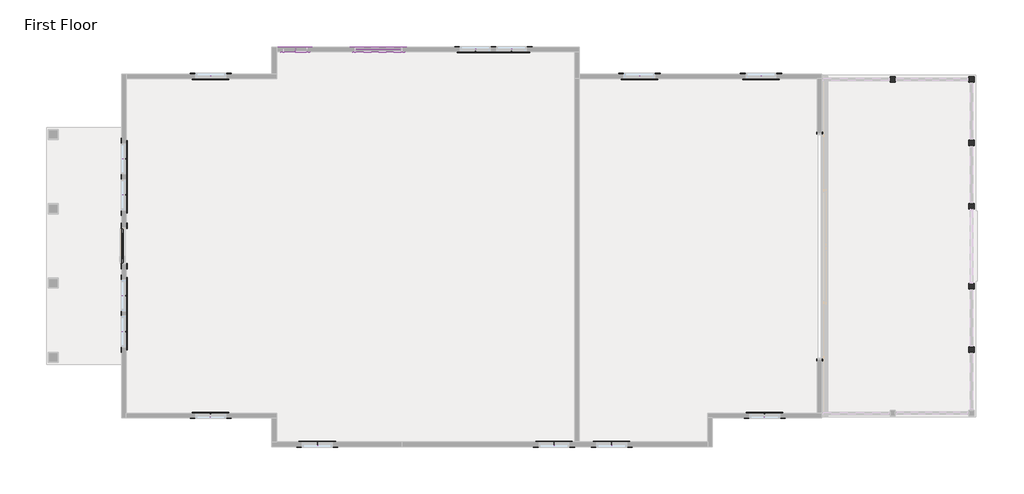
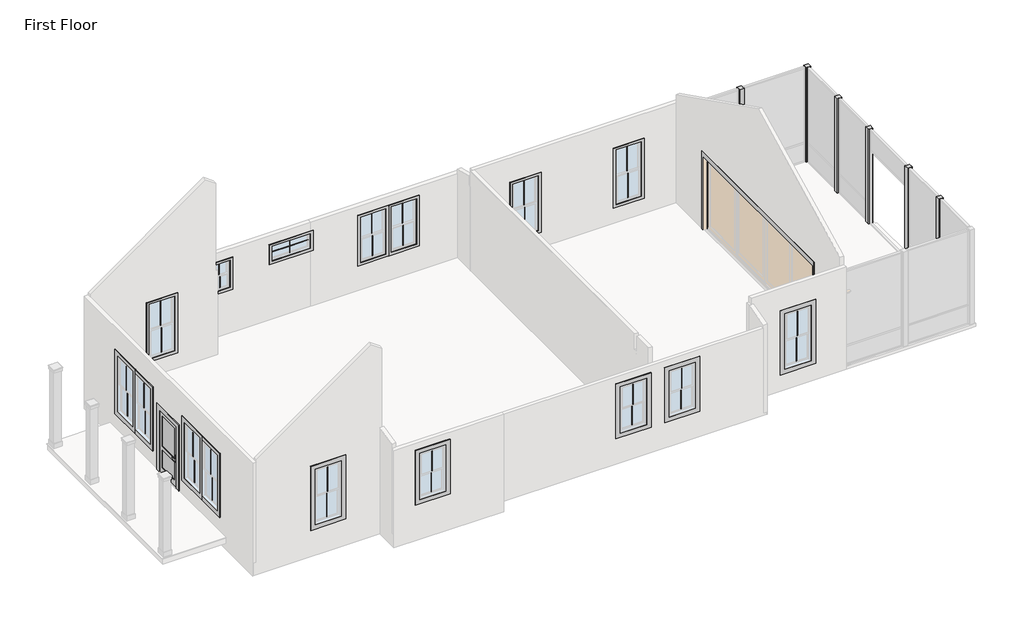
# One storey, part 3 of 3: 68 proxies, 6 columns.
"""IFC4 building model written with IfcOpenShell, lengths in millimetres."""

from ifc_helpers import new_model, si_unit, frame, origin, place, context, project, spatial, polyline, outline, extrude, faceted_brep, transform, mapped, element, save
from components import door_slab_half_light_door_slab_half_light_2d3cdd7a, door_trim_picture_frame_1x2_25_f5844e07, door_trim_picture_frame_standard_eb8f9a70, muntin_pattern_2x1_muntin_pattern_2x1_bbdac9d8, muntin_pattern_2x1_muntin_pattern_2x1_cb6e147c, muntin_pattern_2x1_muntin_pattern_2x1_e36e0986, muntin_pattern_2x2_muntin_pattern_2x2_6d229202, trim_window_exterior_flat_picture_frame_27f6d03d, trim_window_exterior_flat_picture_frame_de176061, trim_window_exterior_flat_picture_frame_9f57b5ba, trim_window_exterior_flat_picture_frame_5406b41e, trim_window_interior_flat_picture_frame_43c14297, trim_window_interior_flat_picture_frame_c160d771, trim_window_interior_flat_picture_frame_e9181bb7, trim_window_interior_flat_picture_frame_488bd46e, dimension_lumber_column_bh_6x6_5fb5b677

model = new_model("IFC4")

# Units and contexts
model_context = context("Model", 3, world=origin())
ifc_project = project(units=[si_unit("LENGTHUNIT", "METRE", prefix="MILLI")], contexts=[model_context])

# Site, building, storey
site = spatial("IfcSite", under=ifc_project)
building = spatial("IfcBuilding", under=site)
storey = spatial("IfcBuildingStorey", under=building, Name="First Floor", Elevation=0.0)

# Proxies
placement = place(None, origin())
door_slab_half_light_door_slab_half_light_shape = door_slab_half_light_door_slab_half_light_2d3cdd7a(model_context)
element("IfcBuildingElementProxy", 1, Name="Door Slab Half Light : Door Slab Half Light", ObjectType="Door Slab Half Light : Door Slab Half Light", at=placement, inside=storey, context=model_context, shape_type="MappedRepresentation", body=[
    mapped(door_slab_half_light_door_slab_half_light_shape, transform((5181.1795833, 10722.6499284, 0.0), x_axis=(0.0, -1.0, 0.0), y_axis=(1.0, 0.0, 0.0), z_axis=(0.0, 0.0, 1.0))),
])
door_trim_picture_frame_1x2_25_shape = door_trim_picture_frame_1x2_25_f5844e07(model_context)
element("IfcBuildingElementProxy", 2, Name="Door Trim Picture Frame : 1x2.25", ObjectType="Door Trim Picture Frame : 1x2.25", at=placement, inside=storey, context=model_context, shape_type="MappedRepresentation", body=[
    mapped(door_trim_picture_frame_1x2_25_shape, transform((23642.2170833, 10707.6893284, 2463.8), x_axis=(0.0, 1.0, 0.0), y_axis=(0.0, 0.0, 1.0), z_axis=(1.0, 0.0, 0.0))),
])
element("IfcBuildingElementProxy", 3, Name="Door Trim Picture Frame : 1x2.25", ObjectType="Door Trim Picture Frame : 1x2.25", at=placement, inside=storey, context=model_context, shape_type="MappedRepresentation", body=[
    mapped(door_trim_picture_frame_1x2_25_shape, transform((23521.5670833, 10707.6893284, 2463.8), x_axis=(0.0, -1.0, 0.0), y_axis=(0.0, 0.0, 1.0), z_axis=(-1.0, 0.0, 0.0))),
])
door_trim_picture_frame_standard_shape = door_trim_picture_frame_standard_eb8f9a70(model_context)
element("IfcBuildingElementProxy", 4, Name="Door Trim Picture Frame : Standard", ObjectType="Door Trim Picture Frame : Standard", at=placement, inside=storey, context=model_context, shape_type="MappedRepresentation", body=[
    mapped(door_trim_picture_frame_standard_shape, transform((5163.7170833, 10722.6499284, 2057.4), x_axis=(0.0, 1.0, 0.0), y_axis=(0.0, 0.0, -1.0), z_axis=(-1.0, 0.0, 0.0))),
])
element("IfcBuildingElementProxy", 5, Name="Door Trim Picture Frame : Standard", ObjectType="Door Trim Picture Frame : Standard", at=placement, inside=storey, context=model_context, shape_type="MappedRepresentation", body=[
    mapped(door_trim_picture_frame_standard_shape, transform((5284.3670833, 10722.6499284, 2057.4), x_axis=(0.0, -1.0, 0.0), y_axis=(0.0, 0.0, -1.0), z_axis=(1.0, 0.0, 0.0))),
])
muntin_pattern_2x1_muntin_pattern_2x1_shape = muntin_pattern_2x1_muntin_pattern_2x1_bbdac9d8(model_context)
element("IfcBuildingElementProxy", 6, Name="Muntin Pattern_2x1 : Muntin Pattern_2x1", ObjectType="Muntin Pattern_2x1 : Muntin Pattern_2x1", at=placement, inside=storey, context=model_context, shape_type="MappedRepresentation", body=[
    mapped(muntin_pattern_2x1_muntin_pattern_2x1_shape, transform((5198.6420833, 12070.1707284, 1546.225), x_axis=(0.0, 1.0, 0.0), y_axis=(-1.0, 0.0, 0.0), z_axis=(0.0, 0.0, 1.0))),
])
element("IfcBuildingElementProxy", 7, Name="Muntin Pattern_2x1 : Muntin Pattern_2x1", ObjectType="Muntin Pattern_2x1 : Muntin Pattern_2x1", at=placement, inside=storey, context=model_context, shape_type="MappedRepresentation", body=[
    mapped(muntin_pattern_2x1_muntin_pattern_2x1_shape, transform((5243.0920833, 12070.1707284, 685.8), x_axis=(0.0, 1.0, 0.0), y_axis=(-1.0, 0.0, 0.0), z_axis=(0.0, 0.0, 1.0))),
])
element("IfcBuildingElementProxy", 8, Name="Muntin Pattern_2x1 : Muntin Pattern_2x1", ObjectType="Muntin Pattern_2x1 : Muntin Pattern_2x1", at=placement, inside=storey, context=model_context, shape_type="MappedRepresentation", body=[
    mapped(muntin_pattern_2x1_muntin_pattern_2x1_shape, transform((5198.6420833, 13022.6707284, 1546.225), x_axis=(0.0, 1.0, 0.0), y_axis=(-1.0, 0.0, 0.0), z_axis=(0.0, 0.0, 1.0))),
])
element("IfcBuildingElementProxy", 9, Name="Muntin Pattern_2x1 : Muntin Pattern_2x1", ObjectType="Muntin Pattern_2x1 : Muntin Pattern_2x1", at=placement, inside=storey, context=model_context, shape_type="MappedRepresentation", body=[
    mapped(muntin_pattern_2x1_muntin_pattern_2x1_shape, transform((5243.0920833, 13022.6707284, 685.8), x_axis=(0.0, 1.0, 0.0), y_axis=(-1.0, 0.0, 0.0), z_axis=(0.0, 0.0, 1.0))),
])
element("IfcBuildingElementProxy", 10, Name="Muntin Pattern_2x1 : Muntin Pattern_2x1", ObjectType="Muntin Pattern_2x1 : Muntin Pattern_2x1", at=placement, inside=storey, context=model_context, shape_type="MappedRepresentation", body=[
    mapped(muntin_pattern_2x1_muntin_pattern_2x1_shape, transform((5198.6420833, 8461.1355284, 1546.225), x_axis=(0.0, 1.0, 0.0), y_axis=(-1.0, 0.0, 0.0), z_axis=(0.0, 0.0, 1.0))),
])
element("IfcBuildingElementProxy", 11, Name="Muntin Pattern_2x1 : Muntin Pattern_2x1", ObjectType="Muntin Pattern_2x1 : Muntin Pattern_2x1", at=placement, inside=storey, context=model_context, shape_type="MappedRepresentation", body=[
    mapped(muntin_pattern_2x1_muntin_pattern_2x1_shape, transform((5243.0920833, 8461.1355284, 685.8), x_axis=(0.0, 1.0, 0.0), y_axis=(-1.0, 0.0, 0.0), z_axis=(0.0, 0.0, 1.0))),
])
element("IfcBuildingElementProxy", 12, Name="Muntin Pattern_2x1 : Muntin Pattern_2x1", ObjectType="Muntin Pattern_2x1 : Muntin Pattern_2x1", at=placement, inside=storey, context=model_context, shape_type="MappedRepresentation", body=[
    mapped(muntin_pattern_2x1_muntin_pattern_2x1_shape, transform((5198.6420833, 9413.6355284, 1546.225), x_axis=(0.0, 1.0, 0.0), y_axis=(-1.0, 0.0, 0.0), z_axis=(0.0, 0.0, 1.0))),
])
element("IfcBuildingElementProxy", 13, Name="Muntin Pattern_2x1 : Muntin Pattern_2x1", ObjectType="Muntin Pattern_2x1 : Muntin Pattern_2x1", at=placement, inside=storey, context=model_context, shape_type="MappedRepresentation", body=[
    mapped(muntin_pattern_2x1_muntin_pattern_2x1_shape, transform((5243.0920833, 9413.6355284, 685.8), x_axis=(0.0, 1.0, 0.0), y_axis=(-1.0, 0.0, 0.0), z_axis=(0.0, 0.0, 1.0))),
])
element("IfcBuildingElementProxy", 14, Name="Muntin Pattern_2x1 : Muntin Pattern_2x1", ObjectType="Muntin Pattern_2x1 : Muntin Pattern_2x1", at=placement, inside=storey, context=model_context, shape_type="MappedRepresentation", body=[
    mapped(muntin_pattern_2x1_muntin_pattern_2x1_shape, transform((7510.0420833, 15227.9749284, 1546.225), x_axis=(1.0, 0.0, 0.0), y_axis=(0.0, 1.0, 0.0), z_axis=(0.0, 0.0, 1.0))),
])
element("IfcBuildingElementProxy", 15, Name="Muntin Pattern_2x1 : Muntin Pattern_2x1", ObjectType="Muntin Pattern_2x1 : Muntin Pattern_2x1", at=placement, inside=storey, context=model_context, shape_type="MappedRepresentation", body=[
    mapped(muntin_pattern_2x1_muntin_pattern_2x1_shape, transform((7510.0420833, 15183.5249284, 685.8), x_axis=(1.0, 0.0, 0.0), y_axis=(0.0, 1.0, 0.0), z_axis=(0.0, 0.0, 1.0))),
])
element("IfcBuildingElementProxy", 16, Name="Muntin Pattern_2x1 : Muntin Pattern_2x1", ObjectType="Muntin Pattern_2x1 : Muntin Pattern_2x1", at=placement, inside=storey, context=model_context, shape_type="MappedRepresentation", body=[
    mapped(muntin_pattern_2x1_muntin_pattern_2x1_shape, transform((18825.4880833, 15227.9749284, 1546.225), x_axis=(1.0, 0.0, 0.0), y_axis=(0.0, 1.0, 0.0), z_axis=(0.0, 0.0, 1.0))),
])
element("IfcBuildingElementProxy", 17, Name="Muntin Pattern_2x1 : Muntin Pattern_2x1", ObjectType="Muntin Pattern_2x1 : Muntin Pattern_2x1", at=placement, inside=storey, context=model_context, shape_type="MappedRepresentation", body=[
    mapped(muntin_pattern_2x1_muntin_pattern_2x1_shape, transform((18825.4880833, 15183.5249284, 685.8), x_axis=(1.0, 0.0, 0.0), y_axis=(0.0, 1.0, 0.0), z_axis=(0.0, 0.0, 1.0))),
])
element("IfcBuildingElementProxy", 18, Name="Muntin Pattern_2x1 : Muntin Pattern_2x1", ObjectType="Muntin Pattern_2x1 : Muntin Pattern_2x1", at=placement, inside=storey, context=model_context, shape_type="MappedRepresentation", body=[
    mapped(muntin_pattern_2x1_muntin_pattern_2x1_shape, transform((22038.6896833, 15227.9749284, 1546.225), x_axis=(1.0, 0.0, 0.0), y_axis=(0.0, 1.0, 0.0), z_axis=(0.0, 0.0, 1.0))),
])
element("IfcBuildingElementProxy", 19, Name="Muntin Pattern_2x1 : Muntin Pattern_2x1", ObjectType="Muntin Pattern_2x1 : Muntin Pattern_2x1", at=placement, inside=storey, context=model_context, shape_type="MappedRepresentation", body=[
    mapped(muntin_pattern_2x1_muntin_pattern_2x1_shape, transform((22038.6896833, 15183.5249284, 685.8), x_axis=(1.0, 0.0, 0.0), y_axis=(0.0, 1.0, 0.0), z_axis=(0.0, 0.0, 1.0))),
])
element("IfcBuildingElementProxy", 20, Name="Muntin Pattern_2x1 : Muntin Pattern_2x1", ObjectType="Muntin Pattern_2x1 : Muntin Pattern_2x1", at=placement, inside=storey, context=model_context, shape_type="MappedRepresentation", body=[
    mapped(muntin_pattern_2x1_muntin_pattern_2x1_shape, transform((22134.0920833, 6217.3249284, 1546.225), x_axis=(-1.0, 0.0, 0.0), y_axis=(0.0, -1.0, 0.0), z_axis=(0.0, 0.0, 1.0))),
])
element("IfcBuildingElementProxy", 21, Name="Muntin Pattern_2x1 : Muntin Pattern_2x1", ObjectType="Muntin Pattern_2x1 : Muntin Pattern_2x1", at=placement, inside=storey, context=model_context, shape_type="MappedRepresentation", body=[
    mapped(muntin_pattern_2x1_muntin_pattern_2x1_shape, transform((22134.0920833, 6261.7749284, 685.8), x_axis=(-1.0, 0.0, 0.0), y_axis=(0.0, -1.0, 0.0), z_axis=(0.0, 0.0, 1.0))),
])
element("IfcBuildingElementProxy", 22, Name="Muntin Pattern_2x1 : Muntin Pattern_2x1", ObjectType="Muntin Pattern_2x1 : Muntin Pattern_2x1", at=placement, inside=storey, context=model_context, shape_type="MappedRepresentation", body=[
    mapped(muntin_pattern_2x1_muntin_pattern_2x1_shape, transform((7510.0420833, 6217.3249284, 1546.225), x_axis=(-1.0, 0.0, 0.0), y_axis=(0.0, -1.0, 0.0), z_axis=(0.0, 0.0, 1.0))),
])
element("IfcBuildingElementProxy", 23, Name="Muntin Pattern_2x1 : Muntin Pattern_2x1", ObjectType="Muntin Pattern_2x1 : Muntin Pattern_2x1", at=placement, inside=storey, context=model_context, shape_type="MappedRepresentation", body=[
    mapped(muntin_pattern_2x1_muntin_pattern_2x1_shape, transform((7510.0420833, 6261.7749284, 685.8), x_axis=(-1.0, 0.0, 0.0), y_axis=(0.0, -1.0, 0.0), z_axis=(0.0, 0.0, 1.0))),
])
muntin_pattern_2x1_muntin_pattern_2x1_2_shape = muntin_pattern_2x1_muntin_pattern_2x1_cb6e147c(model_context)
element("IfcBuildingElementProxy", 24, Name="Muntin Pattern_2x1 : Muntin Pattern_2x1", ObjectType="Muntin Pattern_2x1 : Muntin Pattern_2x1", at=placement, inside=storey, context=model_context, shape_type="MappedRepresentation", body=[
    mapped(muntin_pattern_2x1_muntin_pattern_2x1_2_shape, transform((9743.0068833, 15939.1749284, 2003.425), x_axis=(1.0, 0.0, 0.0), y_axis=(0.0, 1.0, 0.0), z_axis=(0.0, 0.0, 1.0))),
])
element("IfcBuildingElementProxy", 25, Name="Muntin Pattern_2x1 : Muntin Pattern_2x1", ObjectType="Muntin Pattern_2x1 : Muntin Pattern_2x1", at=placement, inside=storey, context=model_context, shape_type="MappedRepresentation", body=[
    mapped(muntin_pattern_2x1_muntin_pattern_2x1_2_shape, transform((9743.0068833, 15894.7249284, 1600.2), x_axis=(1.0, 0.0, 0.0), y_axis=(0.0, 1.0, 0.0), z_axis=(0.0, 0.0, 1.0))),
])
muntin_pattern_2x1_muntin_pattern_2x1_3_shape = muntin_pattern_2x1_muntin_pattern_2x1_e36e0986(model_context)
element("IfcBuildingElementProxy", 26, Name="Muntin Pattern_2x1 : Muntin Pattern_2x1", ObjectType="Muntin Pattern_2x1 : Muntin Pattern_2x1", at=placement, inside=storey, context=model_context, shape_type="MappedRepresentation", body=[
    mapped(muntin_pattern_2x1_muntin_pattern_2x1_3_shape, transform((14496.7438833, 15939.1749284, 1698.625), x_axis=(1.0, 0.0, 0.0), y_axis=(0.0, 1.0, 0.0), z_axis=(0.0, 0.0, 1.0))),
])
element("IfcBuildingElementProxy", 27, Name="Muntin Pattern_2x1 : Muntin Pattern_2x1", ObjectType="Muntin Pattern_2x1 : Muntin Pattern_2x1", at=placement, inside=storey, context=model_context, shape_type="MappedRepresentation", body=[
    mapped(muntin_pattern_2x1_muntin_pattern_2x1_3_shape, transform((14496.7438833, 15894.7249284, 990.6), x_axis=(1.0, 0.0, 0.0), y_axis=(0.0, 1.0, 0.0), z_axis=(0.0, 0.0, 1.0))),
])
element("IfcBuildingElementProxy", 28, Name="Muntin Pattern_2x1 : Muntin Pattern_2x1", ObjectType="Muntin Pattern_2x1 : Muntin Pattern_2x1", at=placement, inside=storey, context=model_context, shape_type="MappedRepresentation", body=[
    mapped(muntin_pattern_2x1_muntin_pattern_2x1_3_shape, transform((15449.2438833, 15939.1749284, 1698.625), x_axis=(1.0, 0.0, 0.0), y_axis=(0.0, 1.0, 0.0), z_axis=(0.0, 0.0, 1.0))),
])
element("IfcBuildingElementProxy", 29, Name="Muntin Pattern_2x1 : Muntin Pattern_2x1", ObjectType="Muntin Pattern_2x1 : Muntin Pattern_2x1", at=placement, inside=storey, context=model_context, shape_type="MappedRepresentation", body=[
    mapped(muntin_pattern_2x1_muntin_pattern_2x1_3_shape, transform((15449.2438833, 15894.7249284, 990.6), x_axis=(1.0, 0.0, 0.0), y_axis=(0.0, 1.0, 0.0), z_axis=(0.0, 0.0, 1.0))),
])
element("IfcBuildingElementProxy", 30, Name="Muntin Pattern_2x1 : Muntin Pattern_2x1", ObjectType="Muntin Pattern_2x1 : Muntin Pattern_2x1", at=placement, inside=storey, context=model_context, shape_type="MappedRepresentation", body=[
    mapped(muntin_pattern_2x1_muntin_pattern_2x1_3_shape, transform((18095.4920833, 5455.3249284, 1698.625), x_axis=(-1.0, 0.0, 0.0), y_axis=(0.0, -1.0, 0.0), z_axis=(0.0, 0.0, 1.0))),
])
element("IfcBuildingElementProxy", 31, Name="Muntin Pattern_2x1 : Muntin Pattern_2x1", ObjectType="Muntin Pattern_2x1 : Muntin Pattern_2x1", at=placement, inside=storey, context=model_context, shape_type="MappedRepresentation", body=[
    mapped(muntin_pattern_2x1_muntin_pattern_2x1_3_shape, transform((18095.4920833, 5499.7749284, 990.6), x_axis=(-1.0, 0.0, 0.0), y_axis=(0.0, -1.0, 0.0), z_axis=(0.0, 0.0, 1.0))),
])
element("IfcBuildingElementProxy", 32, Name="Muntin Pattern_2x1 : Muntin Pattern_2x1", ObjectType="Muntin Pattern_2x1 : Muntin Pattern_2x1", at=placement, inside=storey, context=model_context, shape_type="MappedRepresentation", body=[
    mapped(muntin_pattern_2x1_muntin_pattern_2x1_3_shape, transform((16572.1016833, 5455.3249284, 1698.625), x_axis=(-1.0, 0.0, 0.0), y_axis=(0.0, -1.0, 0.0), z_axis=(0.0, 0.0, 1.0))),
])
element("IfcBuildingElementProxy", 33, Name="Muntin Pattern_2x1 : Muntin Pattern_2x1", ObjectType="Muntin Pattern_2x1 : Muntin Pattern_2x1", at=placement, inside=storey, context=model_context, shape_type="MappedRepresentation", body=[
    mapped(muntin_pattern_2x1_muntin_pattern_2x1_3_shape, transform((16572.1016833, 5499.7749284, 990.6), x_axis=(-1.0, 0.0, 0.0), y_axis=(0.0, -1.0, 0.0), z_axis=(0.0, 0.0, 1.0))),
])
element("IfcBuildingElementProxy", 34, Name="Muntin Pattern_2x1 : Muntin Pattern_2x1", ObjectType="Muntin Pattern_2x1 : Muntin Pattern_2x1", at=placement, inside=storey, context=model_context, shape_type="MappedRepresentation", body=[
    mapped(muntin_pattern_2x1_muntin_pattern_2x1_3_shape, transform((10323.0920833, 5455.3249284, 1698.625), x_axis=(-1.0, 0.0, 0.0), y_axis=(0.0, -1.0, 0.0), z_axis=(0.0, 0.0, 1.0))),
])
element("IfcBuildingElementProxy", 35, Name="Muntin Pattern_2x1 : Muntin Pattern_2x1", ObjectType="Muntin Pattern_2x1 : Muntin Pattern_2x1", at=placement, inside=storey, context=model_context, shape_type="MappedRepresentation", body=[
    mapped(muntin_pattern_2x1_muntin_pattern_2x1_3_shape, transform((10323.0920833, 5499.7749284, 990.6), x_axis=(-1.0, 0.0, 0.0), y_axis=(0.0, -1.0, 0.0), z_axis=(0.0, 0.0, 1.0))),
])
muntin_pattern_2x2_muntin_pattern_2x2_shape = muntin_pattern_2x2_muntin_pattern_2x2_6d229202(model_context)
element("IfcBuildingElementProxy", 36, Name="Muntin Pattern_2x2 : Muntin Pattern_2x2", ObjectType="Muntin Pattern_2x2 : Muntin Pattern_2x2", at=placement, inside=storey, context=model_context, shape_type="MappedRepresentation", body=[
    mapped(muntin_pattern_2x2_muntin_pattern_2x2_shape, transform((11941.6054833, 15935.9999284, 1962.15), x_axis=(1.0, 0.0, 0.0), y_axis=(0.0, 1.0, 0.0), z_axis=(0.0, 0.0, 1.0))),
])
element("IfcBuildingElementProxy", 37, Name="Trim-Window-Exterior-Flat : Picture Frame", ObjectType="Trim-Window-Exterior-Flat : Picture Frame", at=placement, inside=storey, context=model_context, shape_type="SweptSolid", body=[
    extrude(outline(polyline([(11663.7707284, 2438.4), (11663.7707284, 609.6), (12476.5707284, 609.6), (12476.5707284, 469.9), (11524.0707284, 469.9), (11524.0707284, 2578.1), (12476.5707284, 2578.1), (12476.5707284, 2438.4), (11663.7707284, 2438.4)])), frame((5144.6670833, 0.0, 0.0), z_axis=(1.0, 0.0, 0.0), x_axis=(0.0, 1.0, 0.0)), (0.0, 0.0, 1.0), 19.05),
])
element("IfcBuildingElementProxy", 38, Name="Trim-Window-Exterior-Flat : Picture Frame", ObjectType="Trim-Window-Exterior-Flat : Picture Frame", at=placement, inside=storey, context=model_context, shape_type="Brep", body=[
    faceted_brep([(5144.6670833, 12476.5707284, 2578.1), (5144.6670833, 13568.7707284, 2578.1), (5144.6670833, 13568.7707284, 469.9), (5144.6670833, 12476.5707284, 469.9), (5144.6670833, 12476.5707284, 609.6), (5144.6670833, 12476.5707284, 2438.4), (5144.6670833, 12616.2707284, 2438.4), (5144.6670833, 12616.2707284, 609.6), (5144.6670833, 13429.0707284, 609.6), (5144.6670833, 13429.0707284, 2438.4), (5163.7170833, 12476.5707284, 2578.1), (5163.7170833, 12476.5707284, 2438.4), (5163.7170833, 12476.5707284, 609.6), (5163.7170833, 12476.5707284, 469.9), (5163.7170833, 13568.7707284, 469.9), (5163.7170833, 13568.7707284, 2578.1), (5163.7170833, 12616.2707284, 2438.4), (5163.7170833, 13429.0707284, 2438.4), (5163.7170833, 13429.0707284, 609.6), (5163.7170833, 12616.2707284, 609.6)], [[[0, 1, 2, 3, 4, 5], [6, 7, 8, 9]], [[10, 11, 12, 13, 14, 15], [16, 17, 18, 19]], [[7, 6, 16, 19]], [[8, 7, 19, 18]], [[9, 8, 18, 17]], [[6, 9, 17, 16]], [[1, 0, 10, 15]], [[2, 1, 15, 14]], [[3, 2, 14, 13]], [[0, 5, 4, 3, 13, 12, 11, 10]]]),
])
element("IfcBuildingElementProxy", 39, Name="Trim-Window-Exterior-Flat : Picture Frame", ObjectType="Trim-Window-Exterior-Flat : Picture Frame", at=placement, inside=storey, context=model_context, shape_type="SweptSolid", body=[
    extrude(outline(polyline([(8054.7355284, 2438.4), (8054.7355284, 609.6), (8867.5355284, 609.6), (8867.5355284, 469.9), (7915.0355284, 469.9), (7915.0355284, 2578.1), (8867.5355284, 2578.1), (8867.5355284, 2438.4), (8054.7355284, 2438.4)])), frame((5144.6670833, 0.0, 0.0), z_axis=(1.0, 0.0, 0.0), x_axis=(0.0, 1.0, 0.0)), (0.0, 0.0, 1.0), 19.05),
])
element("IfcBuildingElementProxy", 40, Name="Trim-Window-Exterior-Flat : Picture Frame", ObjectType="Trim-Window-Exterior-Flat : Picture Frame", at=placement, inside=storey, context=model_context, shape_type="Brep", body=[
    faceted_brep([(5144.6670833, 8867.5355284, 2578.1), (5144.6670833, 9959.7355284, 2578.1), (5144.6670833, 9959.7355284, 469.9), (5144.6670833, 8867.5355284, 469.9), (5144.6670833, 8867.5355284, 609.6), (5144.6670833, 8867.5355284, 2438.4), (5144.6670833, 9007.2355284, 2438.4), (5144.6670833, 9007.2355284, 609.6), (5144.6670833, 9820.0355284, 609.6), (5144.6670833, 9820.0355284, 2438.4), (5163.7170833, 8867.5355284, 2578.1), (5163.7170833, 8867.5355284, 2438.4), (5163.7170833, 8867.5355284, 609.6), (5163.7170833, 8867.5355284, 469.9), (5163.7170833, 9959.7355284, 469.9), (5163.7170833, 9959.7355284, 2578.1), (5163.7170833, 9007.2355284, 2438.4), (5163.7170833, 9820.0355284, 2438.4), (5163.7170833, 9820.0355284, 609.6), (5163.7170833, 9007.2355284, 609.6)], [[[0, 1, 2, 3, 4, 5], [6, 7, 8, 9]], [[10, 11, 12, 13, 14, 15], [16, 17, 18, 19]], [[7, 6, 16, 19]], [[8, 7, 19, 18]], [[9, 8, 18, 17]], [[6, 9, 17, 16]], [[1, 0, 10, 15]], [[2, 1, 15, 14]], [[3, 2, 14, 13]], [[0, 5, 4, 3, 13, 12, 11, 10]]]),
])
element("IfcBuildingElementProxy", 41, Name="Trim-Window-Exterior-Flat : Picture Frame", ObjectType="Trim-Window-Exterior-Flat : Picture Frame", at=placement, inside=storey, context=model_context, shape_type="Brep", body=[
    faceted_brep([(13950.6438833, 15993.1499284, 2578.1), (15042.8438833, 15993.1499284, 2578.1), (15042.8438833, 15993.1499284, 2438.4), (15042.8438833, 15993.1499284, 914.4), (15042.8438833, 15993.1499284, 774.7), (13950.6438833, 15993.1499284, 774.7), (14090.3438833, 15993.1499284, 2438.4), (14090.3438833, 15993.1499284, 914.4), (14903.1438833, 15993.1499284, 914.4), (14903.1438833, 15993.1499284, 2438.4), (13950.6438833, 15974.0999284, 2578.1), (13950.6438833, 15974.0999284, 774.7), (15042.8438833, 15974.0999284, 774.7), (15042.8438833, 15974.0999284, 914.4), (15042.8438833, 15974.0999284, 2438.4), (15042.8438833, 15974.0999284, 2578.1), (14090.3438833, 15974.0999284, 2438.4), (14903.1438833, 15974.0999284, 2438.4), (14903.1438833, 15974.0999284, 914.4), (14090.3438833, 15974.0999284, 914.4)], [[[0, 1, 2, 3, 4, 5], [6, 7, 8, 9]], [[10, 11, 12, 13, 14, 15], [16, 17, 18, 19]], [[7, 6, 16, 19]], [[8, 7, 19, 18]], [[9, 8, 18, 17]], [[6, 9, 17, 16]], [[1, 0, 10, 15]], [[4, 3, 2, 1, 15, 14, 13, 12]], [[5, 4, 12, 11]], [[0, 5, 11, 10]]]),
])
element("IfcBuildingElementProxy", 42, Name="Trim-Window-Exterior-Flat : Picture Frame", ObjectType="Trim-Window-Exterior-Flat : Picture Frame", at=placement, inside=storey, context=model_context, shape_type="SweptSolid", body=[
    extrude(outline(polyline([(2438.4, 15042.8438833), (2438.4, 15855.6438833), (914.4, 15855.6438833), (914.4, 15042.8438833), (774.7, 15042.8438833), (774.7, 15995.3438833), (2578.1, 15995.3438833), (2578.1, 15042.8438833), (2438.4, 15042.8438833)])), frame((0.0, 15974.0999284, 0.0), z_axis=(0.0, 1.0, 0.0), x_axis=(0.0, 0.0, 1.0)), (0.0, 0.0, 1.0), 19.05),
])
trim_window_exterior_flat_picture_frame_shape = trim_window_exterior_flat_picture_frame_27f6d03d(model_context)
element("IfcBuildingElementProxy", 43, Name="Trim-Window-Exterior-Flat : Picture Frame", ObjectType="Trim-Window-Exterior-Flat : Picture Frame", at=placement, inside=storey, context=model_context, shape_type="MappedRepresentation", body=[
    mapped(trim_window_exterior_flat_picture_frame_shape, transform((7510.0420833, 15262.8999284, 2438.4), x_axis=(-1.0, 0.0, 0.0), y_axis=(0.0, 0.0, 1.0), z_axis=(0.0, 1.0, 0.0))),
])
element("IfcBuildingElementProxy", 44, Name="Trim-Window-Exterior-Flat : Picture Frame", ObjectType="Trim-Window-Exterior-Flat : Picture Frame", at=placement, inside=storey, context=model_context, shape_type="MappedRepresentation", body=[
    mapped(trim_window_exterior_flat_picture_frame_shape, transform((18825.4880833, 15262.8999284, 2438.4), x_axis=(-1.0, 0.0, 0.0), y_axis=(0.0, 0.0, 1.0), z_axis=(0.0, 1.0, 0.0))),
])
element("IfcBuildingElementProxy", 45, Name="Trim-Window-Exterior-Flat : Picture Frame", ObjectType="Trim-Window-Exterior-Flat : Picture Frame", at=placement, inside=storey, context=model_context, shape_type="MappedRepresentation", body=[
    mapped(trim_window_exterior_flat_picture_frame_shape, transform((22038.6896833, 15262.8999284, 2438.4), x_axis=(-1.0, 0.0, 0.0), y_axis=(0.0, 0.0, 1.0), z_axis=(0.0, 1.0, 0.0))),
])
element("IfcBuildingElementProxy", 46, Name="Trim-Window-Exterior-Flat : Picture Frame", ObjectType="Trim-Window-Exterior-Flat : Picture Frame", at=placement, inside=storey, context=model_context, shape_type="MappedRepresentation", body=[
    mapped(trim_window_exterior_flat_picture_frame_shape, transform((22134.0920833, 6182.3999284, 2438.4), x_axis=(1.0, 0.0, 0.0), y_axis=(0.0, 0.0, 1.0), z_axis=(0.0, -1.0, 0.0))),
])
element("IfcBuildingElementProxy", 47, Name="Trim-Window-Exterior-Flat : Picture Frame", ObjectType="Trim-Window-Exterior-Flat : Picture Frame", at=placement, inside=storey, context=model_context, shape_type="MappedRepresentation", body=[
    mapped(trim_window_exterior_flat_picture_frame_shape, transform((7510.0420833, 6182.3999284, 2438.4), x_axis=(1.0, 0.0, 0.0), y_axis=(0.0, 0.0, 1.0), z_axis=(0.0, -1.0, 0.0))),
])
trim_window_exterior_flat_picture_frame_2_shape = trim_window_exterior_flat_picture_frame_de176061(model_context)
element("IfcBuildingElementProxy", 48, Name="Trim-Window-Exterior-Flat : Picture Frame", ObjectType="Trim-Window-Exterior-Flat : Picture Frame", at=placement, inside=storey, context=model_context, shape_type="MappedRepresentation", body=[
    mapped(trim_window_exterior_flat_picture_frame_2_shape, transform((9743.0068833, 15974.0999284, 2438.4), x_axis=(-1.0, 0.0, 0.0), y_axis=(0.0, 0.0, 1.0), z_axis=(0.0, 1.0, 0.0))),
])
trim_window_exterior_flat_picture_frame_3_shape = trim_window_exterior_flat_picture_frame_9f57b5ba(model_context)
element("IfcBuildingElementProxy", 49, Name="Trim-Window-Exterior-Flat : Picture Frame", ObjectType="Trim-Window-Exterior-Flat : Picture Frame", at=placement, inside=storey, context=model_context, shape_type="MappedRepresentation", body=[
    mapped(trim_window_exterior_flat_picture_frame_3_shape, transform((18095.4920833, 5420.3999284, 2438.4), x_axis=(1.0, 0.0, 0.0), y_axis=(0.0, 0.0, 1.0), z_axis=(0.0, -1.0, 0.0))),
])
element("IfcBuildingElementProxy", 50, Name="Trim-Window-Exterior-Flat : Picture Frame", ObjectType="Trim-Window-Exterior-Flat : Picture Frame", at=placement, inside=storey, context=model_context, shape_type="MappedRepresentation", body=[
    mapped(trim_window_exterior_flat_picture_frame_3_shape, transform((16572.1016833, 5420.3999284, 2438.4), x_axis=(1.0, 0.0, 0.0), y_axis=(0.0, 0.0, 1.0), z_axis=(0.0, -1.0, 0.0))),
])
element("IfcBuildingElementProxy", 51, Name="Trim-Window-Exterior-Flat : Picture Frame", ObjectType="Trim-Window-Exterior-Flat : Picture Frame", at=placement, inside=storey, context=model_context, shape_type="MappedRepresentation", body=[
    mapped(trim_window_exterior_flat_picture_frame_3_shape, transform((10323.0920833, 5420.3999284, 2438.4), x_axis=(1.0, 0.0, 0.0), y_axis=(0.0, 0.0, 1.0), z_axis=(0.0, -1.0, 0.0))),
])
trim_window_exterior_flat_picture_frame_4_shape = trim_window_exterior_flat_picture_frame_5406b41e(model_context)
element("IfcBuildingElementProxy", 52, Name="Trim-Window-Exterior-Flat : Picture Frame", ObjectType="Trim-Window-Exterior-Flat : Picture Frame", at=placement, inside=storey, context=model_context, shape_type="MappedRepresentation", body=[
    mapped(trim_window_exterior_flat_picture_frame_4_shape, transform((11941.6054833, 15974.0999284, 2438.4), x_axis=(-1.0, 0.0, 0.0), y_axis=(0.0, 0.0, 1.0), z_axis=(0.0, 1.0, 0.0))),
])
trim_window_interior_flat_picture_frame_shape = trim_window_interior_flat_picture_frame_43c14297(model_context)
element("IfcBuildingElementProxy", 53, Name="Trim-Window-Interior-Flat : Picture Frame", ObjectType="Trim-Window-Interior-Flat : Picture Frame", at=placement, inside=storey, context=model_context, shape_type="MappedRepresentation", body=[
    mapped(trim_window_interior_flat_picture_frame_shape, transform((5284.3670833, 12070.1707284, 2438.4), x_axis=(0.0, 1.0, 0.0), y_axis=(0.0, 0.0, 1.0), z_axis=(1.0, 0.0, 0.0))),
])
element("IfcBuildingElementProxy", 54, Name="Trim-Window-Interior-Flat : Picture Frame", ObjectType="Trim-Window-Interior-Flat : Picture Frame", at=placement, inside=storey, context=model_context, shape_type="MappedRepresentation", body=[
    mapped(trim_window_interior_flat_picture_frame_shape, transform((5284.3670833, 13022.6707284, 2438.4), x_axis=(0.0, 1.0, 0.0), y_axis=(0.0, 0.0, 1.0), z_axis=(1.0, 0.0, 0.0))),
])
element("IfcBuildingElementProxy", 55, Name="Trim-Window-Interior-Flat : Picture Frame", ObjectType="Trim-Window-Interior-Flat : Picture Frame", at=placement, inside=storey, context=model_context, shape_type="MappedRepresentation", body=[
    mapped(trim_window_interior_flat_picture_frame_shape, transform((5284.3670833, 8461.1355284, 2438.4), x_axis=(0.0, 1.0, 0.0), y_axis=(0.0, 0.0, 1.0), z_axis=(1.0, 0.0, 0.0))),
])
element("IfcBuildingElementProxy", 56, Name="Trim-Window-Interior-Flat : Picture Frame", ObjectType="Trim-Window-Interior-Flat : Picture Frame", at=placement, inside=storey, context=model_context, shape_type="MappedRepresentation", body=[
    mapped(trim_window_interior_flat_picture_frame_shape, transform((5284.3670833, 9413.6355284, 2438.4), x_axis=(0.0, 1.0, 0.0), y_axis=(0.0, 0.0, 1.0), z_axis=(1.0, 0.0, 0.0))),
])
element("IfcBuildingElementProxy", 57, Name="Trim-Window-Interior-Flat : Picture Frame", ObjectType="Trim-Window-Interior-Flat : Picture Frame", at=placement, inside=storey, context=model_context, shape_type="MappedRepresentation", body=[
    mapped(trim_window_interior_flat_picture_frame_shape, transform((7510.0420833, 15142.2499284, 2438.4), x_axis=(1.0, 0.0, 0.0), y_axis=(0.0, 0.0, 1.0), z_axis=(0.0, -1.0, 0.0))),
])
element("IfcBuildingElementProxy", 58, Name="Trim-Window-Interior-Flat : Picture Frame", ObjectType="Trim-Window-Interior-Flat : Picture Frame", at=placement, inside=storey, context=model_context, shape_type="MappedRepresentation", body=[
    mapped(trim_window_interior_flat_picture_frame_shape, transform((18825.4880833, 15142.2499284, 2438.4), x_axis=(1.0, 0.0, 0.0), y_axis=(0.0, 0.0, 1.0), z_axis=(0.0, -1.0, 0.0))),
])
element("IfcBuildingElementProxy", 59, Name="Trim-Window-Interior-Flat : Picture Frame", ObjectType="Trim-Window-Interior-Flat : Picture Frame", at=placement, inside=storey, context=model_context, shape_type="MappedRepresentation", body=[
    mapped(trim_window_interior_flat_picture_frame_shape, transform((22038.6896833, 15142.2499284, 2438.4), x_axis=(1.0, 0.0, 0.0), y_axis=(0.0, 0.0, 1.0), z_axis=(0.0, -1.0, 0.0))),
])
element("IfcBuildingElementProxy", 60, Name="Trim-Window-Interior-Flat : Picture Frame", ObjectType="Trim-Window-Interior-Flat : Picture Frame", at=placement, inside=storey, context=model_context, shape_type="MappedRepresentation", body=[
    mapped(trim_window_interior_flat_picture_frame_shape, transform((22134.0920833, 6303.0499284, 2438.4), x_axis=(-1.0, 0.0, 0.0), y_axis=(0.0, 0.0, 1.0), z_axis=(0.0, 1.0, 0.0))),
])
element("IfcBuildingElementProxy", 61, Name="Trim-Window-Interior-Flat : Picture Frame", ObjectType="Trim-Window-Interior-Flat : Picture Frame", at=placement, inside=storey, context=model_context, shape_type="MappedRepresentation", body=[
    mapped(trim_window_interior_flat_picture_frame_shape, transform((7510.0420833, 6303.0499284, 2438.4), x_axis=(-1.0, 0.0, 0.0), y_axis=(0.0, 0.0, 1.0), z_axis=(0.0, 1.0, 0.0))),
])
trim_window_interior_flat_picture_frame_2_shape = trim_window_interior_flat_picture_frame_c160d771(model_context)
element("IfcBuildingElementProxy", 62, Name="Trim-Window-Interior-Flat : Picture Frame", ObjectType="Trim-Window-Interior-Flat : Picture Frame", at=placement, inside=storey, context=model_context, shape_type="MappedRepresentation", body=[
    mapped(trim_window_interior_flat_picture_frame_2_shape, transform((9743.0068833, 15853.4499284, 2438.4), x_axis=(1.0, 0.0, 0.0), y_axis=(0.0, 0.0, 1.0), z_axis=(0.0, -1.0, 0.0))),
])
trim_window_interior_flat_picture_frame_3_shape = trim_window_interior_flat_picture_frame_e9181bb7(model_context)
element("IfcBuildingElementProxy", 63, Name="Trim-Window-Interior-Flat : Picture Frame", ObjectType="Trim-Window-Interior-Flat : Picture Frame", at=placement, inside=storey, context=model_context, shape_type="MappedRepresentation", body=[
    mapped(trim_window_interior_flat_picture_frame_3_shape, transform((14496.7438833, 15853.4499284, 2438.4), x_axis=(1.0, 0.0, 0.0), y_axis=(0.0, 0.0, 1.0), z_axis=(0.0, -1.0, 0.0))),
])
element("IfcBuildingElementProxy", 64, Name="Trim-Window-Interior-Flat : Picture Frame", ObjectType="Trim-Window-Interior-Flat : Picture Frame", at=placement, inside=storey, context=model_context, shape_type="MappedRepresentation", body=[
    mapped(trim_window_interior_flat_picture_frame_3_shape, transform((15449.2438833, 15853.4499284, 2438.4), x_axis=(1.0, 0.0, 0.0), y_axis=(0.0, 0.0, 1.0), z_axis=(0.0, -1.0, 0.0))),
])
element("IfcBuildingElementProxy", 65, Name="Trim-Window-Interior-Flat : Picture Frame", ObjectType="Trim-Window-Interior-Flat : Picture Frame", at=placement, inside=storey, context=model_context, shape_type="MappedRepresentation", body=[
    mapped(trim_window_interior_flat_picture_frame_3_shape, transform((18095.4920833, 5541.0499284, 2438.4), x_axis=(-1.0, 0.0, 0.0), y_axis=(0.0, 0.0, 1.0), z_axis=(0.0, 1.0, 0.0))),
])
element("IfcBuildingElementProxy", 66, Name="Trim-Window-Interior-Flat : Picture Frame", ObjectType="Trim-Window-Interior-Flat : Picture Frame", at=placement, inside=storey, context=model_context, shape_type="MappedRepresentation", body=[
    mapped(trim_window_interior_flat_picture_frame_3_shape, transform((16572.1016833, 5541.0499284, 2438.4), x_axis=(-1.0, 0.0, 0.0), y_axis=(0.0, 0.0, 1.0), z_axis=(0.0, 1.0, 0.0))),
])
element("IfcBuildingElementProxy", 67, Name="Trim-Window-Interior-Flat : Picture Frame", ObjectType="Trim-Window-Interior-Flat : Picture Frame", at=placement, inside=storey, context=model_context, shape_type="MappedRepresentation", body=[
    mapped(trim_window_interior_flat_picture_frame_3_shape, transform((10323.0920833, 5541.0499284, 2438.4), x_axis=(-1.0, 0.0, 0.0), y_axis=(0.0, 0.0, 1.0), z_axis=(0.0, 1.0, 0.0))),
])
trim_window_interior_flat_picture_frame_4_shape = trim_window_interior_flat_picture_frame_488bd46e(model_context)
element("IfcBuildingElementProxy", 68, Name="Trim-Window-Interior-Flat : Picture Frame", ObjectType="Trim-Window-Interior-Flat : Picture Frame", at=placement, inside=storey, context=model_context, shape_type="MappedRepresentation", body=[
    mapped(trim_window_interior_flat_picture_frame_4_shape, transform((11941.6054833, 15853.4499284, 2438.4), x_axis=(1.0, 0.0, 0.0), y_axis=(0.0, 0.0, 1.0), z_axis=(0.0, -1.0, 0.0))),
])

# Columns
dimension_lumber_column_bh_6x6_shape = dimension_lumber_column_bh_6x6_5fb5b677(model_context)
element("IfcColumn", 69, ObjectType="Dimension Lumber-Column BH : 6x6", at=placement, inside=storey, context=model_context, shape_type="MappedRepresentation", body=[
    mapped(dimension_lumber_column_bh_6x6_shape, transform((27590.4311833, 15121.7140284, 0.0), x_axis=(1.0, 0.0, 0.0), y_axis=(0.0, 1.0, 0.0), z_axis=(0.0, 0.0, 1.0))),
])
element("IfcColumn", 70, ObjectType="Dimension Lumber-Column BH : 6x6", at=placement, inside=storey, context=model_context, shape_type="MappedRepresentation", body=[
    mapped(dimension_lumber_column_bh_6x6_shape, transform((27590.4311833, 11768.9140284, 0.0), x_axis=(1.0, 0.0, 0.0), y_axis=(0.0, 1.0, 0.0), z_axis=(0.0, 0.0, 1.0))),
])
element("IfcColumn", 71, ObjectType="Dimension Lumber-Column BH : 6x6", at=placement, inside=storey, context=model_context, shape_type="MappedRepresentation", body=[
    mapped(dimension_lumber_column_bh_6x6_shape, transform((27590.4311833, 9655.8499284, 0.0), x_axis=(1.0, 0.0, 0.0), y_axis=(0.0, 1.0, 0.0), z_axis=(0.0, 0.0, 1.0))),
])
element("IfcColumn", 72, ObjectType="Dimension Lumber-Column BH : 6x6", at=placement, inside=storey, context=model_context, shape_type="MappedRepresentation", body=[
    mapped(dimension_lumber_column_bh_6x6_shape, transform((27590.4311833, 13445.3140284, 0.0), x_axis=(1.0, 0.0, 0.0), y_axis=(0.0, 1.0, 0.0), z_axis=(0.0, 0.0, 1.0))),
])
element("IfcColumn", 73, ObjectType="Dimension Lumber-Column BH : 6x6", at=placement, inside=storey, context=model_context, shape_type="MappedRepresentation", body=[
    mapped(dimension_lumber_column_bh_6x6_shape, transform((27590.4311833, 7979.4499284, 0.0), x_axis=(1.0, 0.0, 0.0), y_axis=(0.0, 1.0, 0.0), z_axis=(0.0, 0.0, 1.0))),
])
element("IfcColumn", 74, ObjectType="Dimension Lumber-Column BH : 6x6", at=placement, inside=storey, context=model_context, shape_type="MappedRepresentation", body=[
    mapped(dimension_lumber_column_bh_6x6_shape, transform((25515.9623833, 15121.7140284, 0.0), x_axis=(1.0, 0.0, 0.0), y_axis=(0.0, 1.0, 0.0), z_axis=(0.0, 0.0, 1.0))),
])

save(model, "model.ifc")
